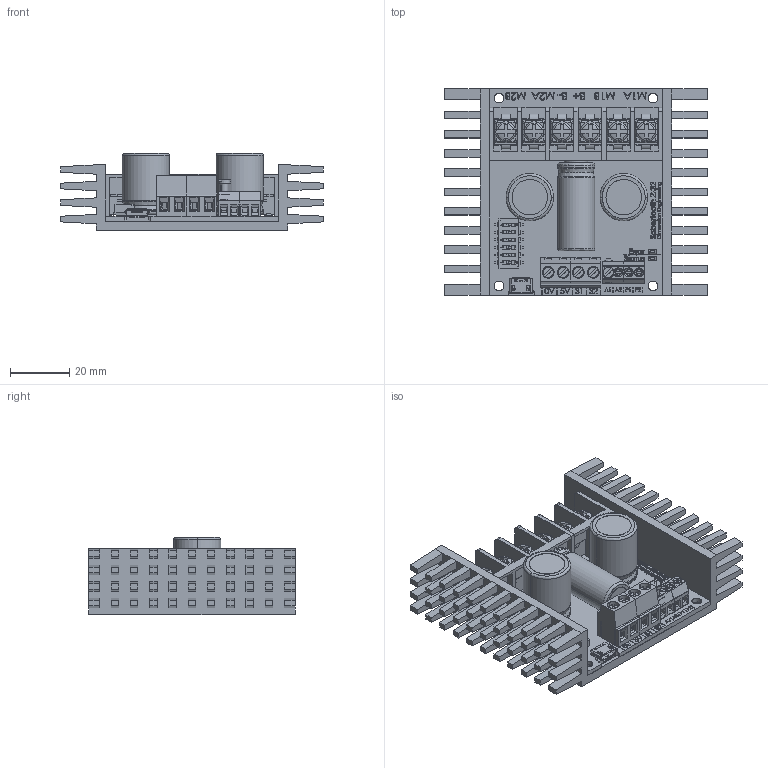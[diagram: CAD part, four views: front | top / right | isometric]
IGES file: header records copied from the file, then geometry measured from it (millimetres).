
Start section: SolidWorks IGES file using analytic representation for surfaces
Global section: file name: \\FILESERVER\Server\Sabertooth 2x32 images\Sabertooth 2x32.IGS; native system: SolidWorks 2011; preprocessor: SolidWorks 2011; author: Ultrabook; date: 141021.150534; units: inch
Bounding box: 88.9 x 69.87 x 26.05 mm (x, y, z)
Surface area: 56450.5 mm2 (no closed solid volume)
Topology: 0 solids, 0 shells, 4248 faces, 35990 edges, 35938 vertices
Faces by surface type: bspline 3479, revolution 769
